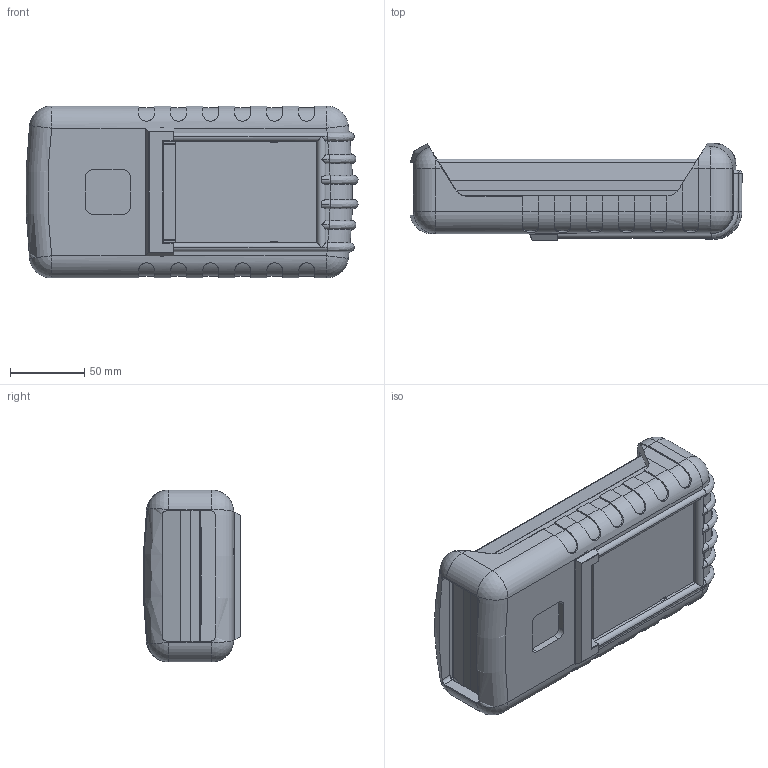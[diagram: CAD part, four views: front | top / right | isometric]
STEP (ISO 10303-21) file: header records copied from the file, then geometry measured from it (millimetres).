
FILE_DESCRIPTION (( 'STEP AP214' ), '1' );
FILE_NAME ('100-42-NO-E-F.STEP', '2020-11-20T21:39:56', ( 'Rudy' ), ( '' ), 'SwSTEP 2.0', 'SolidWorks 2016', '' );
FILE_SCHEMA (( 'AUTOMOTIVE_DESIGN' ));
Length unit declared in the file: inch
Products named in the file (6): 100 RBE; 100-NO- PCB; 100-04-flush Top; 100-06 EXPANDER; 100-02 BOT-NO BAT; 100-42-NO-E-F
Assembly tree (5 placements, depth 2):
  100-42-NO-E-F
    100-02 BOT-NO BAT
    100-06 EXPANDER
    100-04-flush Top
    100-NO- PCB
    100 RBE
Bounding box: 223.76 x 65.38 x 115.87 mm (x, y, z)
Volume: 427847.8 mm3; surface area: 267384.4 mm2
Topology: 5 solids, 5 shells, 1039 faces, 2737 edges, 1710 vertices
Faces by surface type: plane 480, cylinder 404, bspline 67, cone 50, torus 26, sphere 12
Entity records: 35446 total; most frequent: CARTESIAN_POINT 10720, ORIENTED_EDGE 5394, DIRECTION 4779, EDGE_CURVE 2697, VERTEX_POINT 1702, AXIS2_PLACEMENT_3D 1608, LINE 1563, VECTOR 1563
